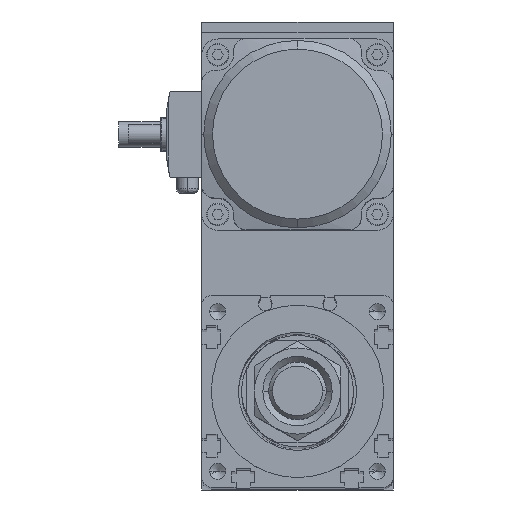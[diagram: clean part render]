
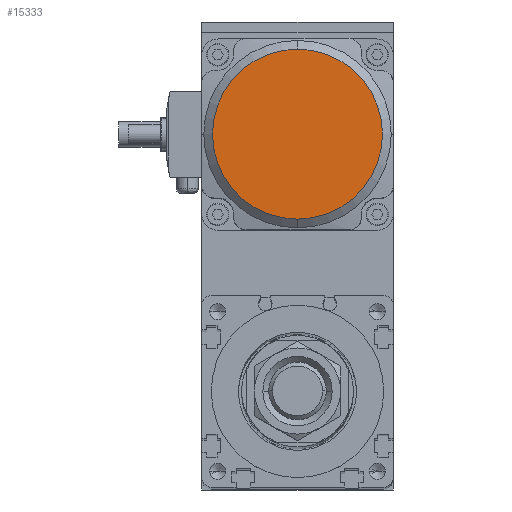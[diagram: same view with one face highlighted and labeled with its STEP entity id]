
A CAD part, top view. The second image highlights one B-rep face of the part: STEP entity #15333.
In plain terms, the highlighted planar face has unit normal (0, 0, 1).
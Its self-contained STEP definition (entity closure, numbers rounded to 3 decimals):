
#3099 = CARTESIAN_POINT ( 'NONE',  ( 187.19, 103.585, 99. ) ) ;
#3248 = CARTESIAN_POINT ( 'NONE',  ( 187.19, 76.969, 99. ) ) ;
#3259 = CIRCLE ( 'NONE', #3322, 26.616 ) ;
#3307 = CARTESIAN_POINT ( 'NONE',  ( 187.19, 50.353, 99. ) ) ;
#3322 = AXIS2_PLACEMENT_3D ( 'NONE', #3248, #3349, #3348 ) ;
#3348 = DIRECTION ( 'NONE',  ( 0., 1., 0. ) ) ;
#3349 = DIRECTION ( 'NONE',  ( 0., 0., -1. ) ) ;
#3714 = FACE_OUTER_BOUND ( 'NONE', #15345, .T. ) ;
#3801 = DIRECTION ( 'NONE',  ( 0., 1., 0. ) ) ;
#3802 = DIRECTION ( 'NONE',  ( 0., 0., -1. ) ) ;
#3806 = AXIS2_PLACEMENT_3D ( 'NONE', #3817, #3802, #3801 ) ;
#3808 = PLANE ( 'NONE',  #3806 ) ;
#3817 = CARTESIAN_POINT ( 'NONE',  ( 187.19, 76.969, 99. ) ) ;
#14866 = VERTEX_POINT ( 'NONE', #3099 ) ;
#15062 = EDGE_CURVE ( 'NONE', #14866, #15076, #3259, .T. ) ;
#15076 = VERTEX_POINT ( 'NONE', #3307 ) ;
#15333 = ADVANCED_FACE ( 'NONE', ( #3714 ), #3808, .F. ) ;
#15345 = EDGE_LOOP ( 'NONE', ( #15346, #15549 ) ) ;
#15346 = ORIENTED_EDGE ( 'NONE', *, *, #15062, .F. ) ;
#15520 = EDGE_CURVE ( 'NONE', #15076, #14866, #18223, .T. ) ;
#15549 = ORIENTED_EDGE ( 'NONE', *, *, #15520, .F. ) ;
#18163 = CARTESIAN_POINT ( 'NONE',  ( 187.19, 76.969, 99. ) ) ;
#18168 = AXIS2_PLACEMENT_3D ( 'NONE', #18163, #18174, #18195 ) ;
#18174 = DIRECTION ( 'NONE',  ( 0., 0., -1. ) ) ;
#18195 = DIRECTION ( 'NONE',  ( 0., 1., 0. ) ) ;
#18223 = CIRCLE ( 'NONE', #18168, 26.616 ) ;
